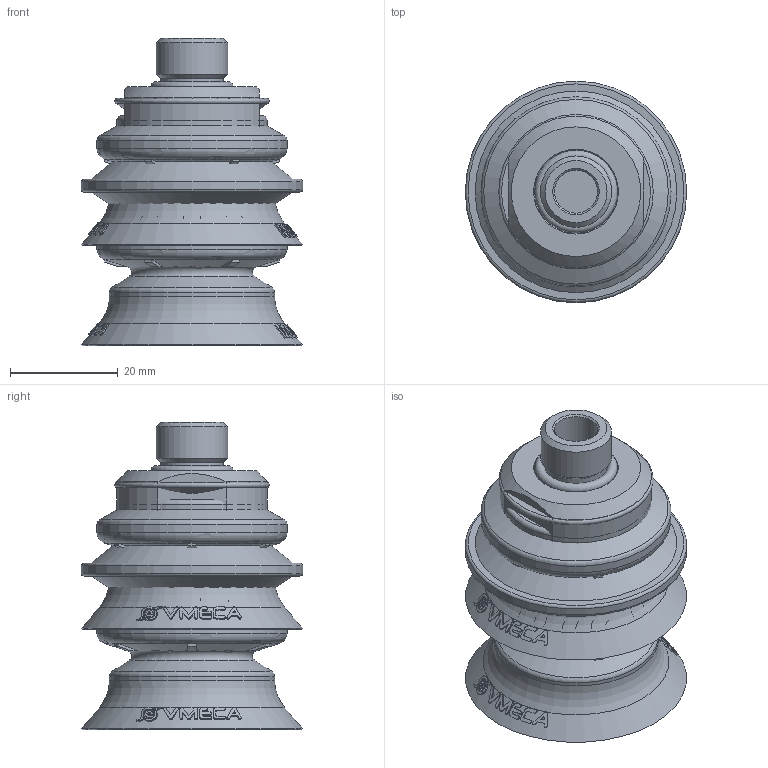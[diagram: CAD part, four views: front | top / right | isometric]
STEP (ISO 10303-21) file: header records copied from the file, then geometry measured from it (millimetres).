
FILE_DESCRIPTION( ( 'Unknown' ), '1' );
FILE_NAME( 'C:/Documents and Settings/Administrator/官帕 拳搁/Magic Cup (Dim)/B1.5/DD TYPE/B1.5-40/B1.5-40-DD4030-N6-D-F2-14M.stp', 'Unknown', ( 'Unknown' ), ( 'Unknown' ), 'XStep 1.0', 'Unknown', ' ' );
FILE_SCHEMA( ( 'automotive_design' ) );
Length unit declared in the file: millimetre
Products named in the file (8): Assem1; Assem2; Assem3; B1.5-40(DIM); 40-14M(DIM); 14M-Oring(DIM); MBL4030; 赤40 STOPPER 
Bounding box: 41 x 41 x 56.99 mm (x, y, z)
Volume: 64098.2 mm3; surface area: 59071.2 mm2
Topology: 15 solids, 15 shells, 1986 faces, 5388 edges, 3555 vertices
Faces by surface type: plane 474, bspline 426, cone 414, cylinder 387, torus 285
Full cylindrical faces by diameter (mm): 8 x3, 11.5 x3, 13.2 x3, 15.3 x3, 16 x3, 21 x6, 21.5 x6, 22 x3, 24 x6, 24.8 x3, 27.8 x6, 28 x3, 30.6 x3, 34.2 x3, 35.2 x3, 41 x3
Entity records: 25726 total; most frequent: CARTESIAN_POINT 10991, ORIENTED_EDGE 3388, DIRECTION 2179, EDGE_CURVE 1694, VERTEX_POINT 1172, B_SPLINE_CURVE_WITH_KNOTS 979, AXIS2_PLACEMENT_3D 936, EDGE_LOOP 798
